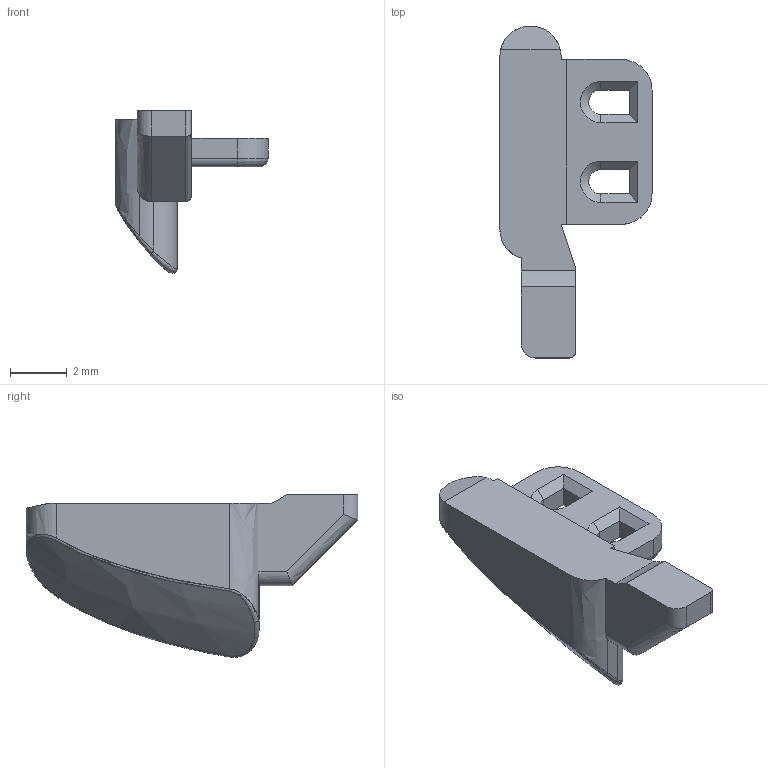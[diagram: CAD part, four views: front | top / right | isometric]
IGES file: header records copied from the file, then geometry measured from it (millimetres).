
Start section:  PTC IGES file: pcmcia_lens_prt.igs
Global section: file name: pcmcia_lens_prt.igs; native system: Pro/ENGINEER by Parametric Technology Corporation; preprocessor: 2000030; author: ECaille; organization: Unknown; date: 000803.092130; units: millimetre
Bounding box: 5.35 x 11.68 x 5.72 mm (x, y, z)
Surface area: 177.8 mm2 (no closed solid volume)
Topology: 0 solids, 0 shells, 59 faces, 470 edges, 646 vertices
Faces by surface type: bspline 36, revolution 23
